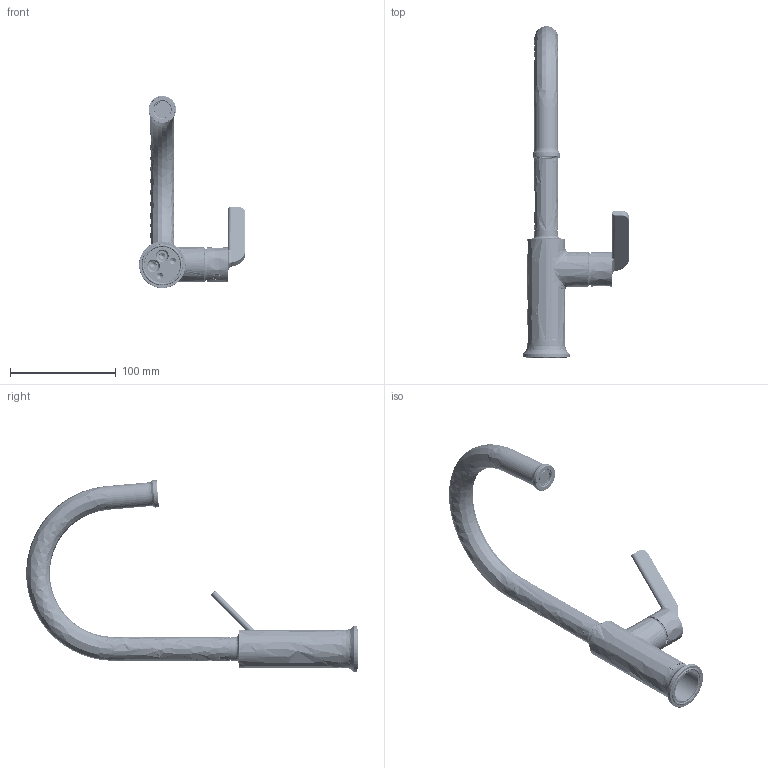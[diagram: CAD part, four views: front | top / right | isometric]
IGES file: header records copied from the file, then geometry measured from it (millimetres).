
Start section: SolidWorks IGES file using analytic representation for surfaces
Global section: file name: W:\mliu8\project\ADHOC-02291\sku_au601series_igs.IGS; native system: SolidWorks 2023; preprocessor: SolidWorks 2023; author: mliu8; date: 240722.103442; units: millimetre
Bounding box: 100.22 x 314.01 x 181.91 mm (x, y, z)
Surface area: 122378.4 mm2 (no closed solid volume)
Topology: 0 solids, 0 shells, 2567 faces, 25995 edges, 25916 vertices
Faces by surface type: bspline 1481, revolution 1086
